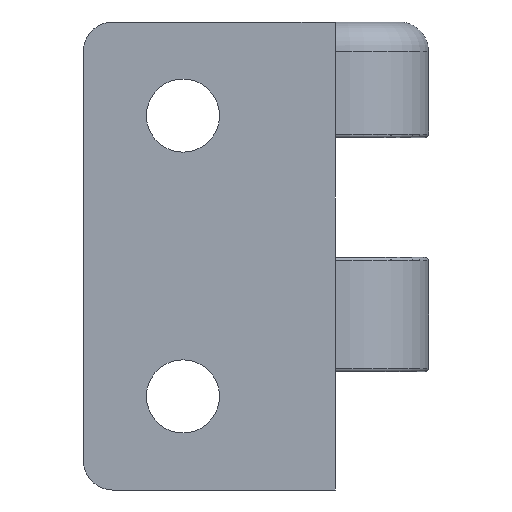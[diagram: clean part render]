
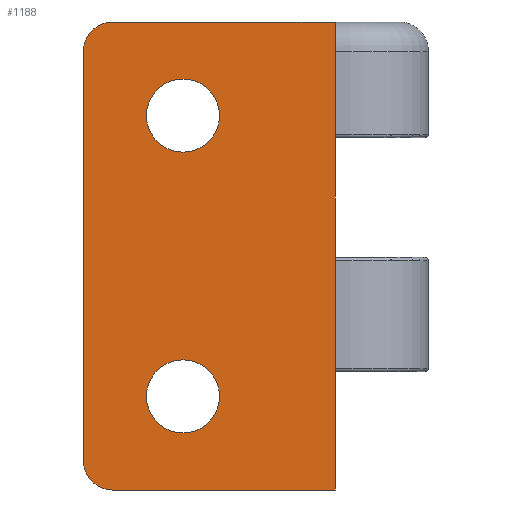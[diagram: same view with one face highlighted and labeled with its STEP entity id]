
A CAD part, front view. The second image highlights one B-rep face of the part: STEP entity #1188.
In plain terms, the highlighted planar face has unit normal (0, -1, 0).
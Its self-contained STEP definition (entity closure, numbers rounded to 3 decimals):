
#25 = AXIS2_PLACEMENT_3D ( 'NONE', #739, #729, #1416 ) ;
#50 = EDGE_LOOP ( 'NONE', ( #555 ) ) ;
#74 = VECTOR ( 'NONE', #1435, 1000. ) ;
#77 = CARTESIAN_POINT ( 'NONE',  ( -13.5, -10., -8.875 ) ) ;
#80 = CIRCLE ( 'NONE', #346, 2.5 ) ;
#118 = LINE ( 'NONE', #767, #74 ) ;
#157 = FACE_BOUND ( 'NONE', #1298, .T. ) ;
#160 = VERTEX_POINT ( 'NONE', #878 ) ;
#163 = PLANE ( 'NONE',  #841 ) ;
#173 = CARTESIAN_POINT ( 'NONE',  ( -13.5, -10., -12. ) ) ;
#205 = LINE ( 'NONE', #988, #1139 ) ;
#228 = VERTEX_POINT ( 'NONE', #710 ) ;
#253 = AXIS2_PLACEMENT_3D ( 'NONE', #173, #1392, #509 ) ;
#280 = VECTOR ( 'NONE', #516, 1000. ) ;
#287 = VERTEX_POINT ( 'NONE', #77 ) ;
#341 = CARTESIAN_POINT ( 'NONE',  ( -0.5, -10., 20. ) ) ;
#343 = EDGE_CURVE ( 'NONE', #359, #562, #1245, .T. ) ;
#346 = AXIS2_PLACEMENT_3D ( 'NONE', #354, #1009, #1014 ) ;
#354 = CARTESIAN_POINT ( 'NONE',  ( -19.5, -10., 17.5 ) ) ;
#359 = VERTEX_POINT ( 'NONE', #388 ) ;
#368 = FACE_BOUND ( 'NONE', #50, .T. ) ;
#379 = CARTESIAN_POINT ( 'NONE',  ( -13.5, -10., 15.125 ) ) ;
#388 = CARTESIAN_POINT ( 'NONE',  ( -22., -10., -17.5 ) ) ;
#485 = ORIENTED_EDGE ( 'NONE', *, *, #1121, .T. ) ;
#498 = EDGE_CURVE ( 'NONE', #541, #359, #118, .T. ) ;
#507 = LINE ( 'NONE', #850, #280 ) ;
#509 = DIRECTION ( 'NONE',  ( 0., 0., 1. ) ) ;
#516 = DIRECTION ( 'NONE',  ( 1., 0., 0. ) ) ;
#541 = VERTEX_POINT ( 'NONE', #1227 ) ;
#555 = ORIENTED_EDGE ( 'NONE', *, *, #673, .T. ) ;
#562 = VERTEX_POINT ( 'NONE', #978 ) ;
#584 = AXIS2_PLACEMENT_3D ( 'NONE', #1318, #780, #1211 ) ;
#585 = ORIENTED_EDGE ( 'NONE', *, *, #1273, .F. ) ;
#652 = DIRECTION ( 'NONE',  ( 0., 1., 0. ) ) ;
#673 = EDGE_CURVE ( 'NONE', #287, #287, #984, .T. ) ;
#710 = CARTESIAN_POINT ( 'NONE',  ( -0.5, -10., 20. ) ) ;
#717 = FACE_OUTER_BOUND ( 'NONE', #1048, .T. ) ;
#729 = DIRECTION ( 'NONE',  ( 0., -1., 0. ) ) ;
#739 = CARTESIAN_POINT ( 'NONE',  ( -19.5, -10., -17.5 ) ) ;
#757 = DIRECTION ( 'NONE',  ( -1., 0., 0. ) ) ;
#767 = CARTESIAN_POINT ( 'NONE',  ( -22., -10., 20. ) ) ;
#780 = DIRECTION ( 'NONE',  ( 0., 1., 0. ) ) ;
#834 = CARTESIAN_POINT ( 'NONE',  ( -0.5, -10., 20. ) ) ;
#841 = AXIS2_PLACEMENT_3D ( 'NONE', #834, #652, #757 ) ;
#844 = CIRCLE ( 'NONE', #584, 3.125 ) ;
#850 = CARTESIAN_POINT ( 'NONE',  ( -0.5, -10., -20. ) ) ;
#859 = ORIENTED_EDGE ( 'NONE', *, *, #918, .F. ) ;
#866 = VECTOR ( 'NONE', #1129, 1000. ) ;
#878 = CARTESIAN_POINT ( 'NONE',  ( -0.5, -10., -20. ) ) ;
#918 = EDGE_CURVE ( 'NONE', #1279, #228, #1363, .T. ) ;
#978 = CARTESIAN_POINT ( 'NONE',  ( -19.5, -10., -20. ) ) ;
#984 = CIRCLE ( 'NONE', #253, 3.125 ) ;
#988 = CARTESIAN_POINT ( 'NONE',  ( -0.5, -10., 20. ) ) ;
#995 = EDGE_CURVE ( 'NONE', #1279, #541, #80, .T. ) ;
#1009 = DIRECTION ( 'NONE',  ( 0., -1., 0. ) ) ;
#1014 = DIRECTION ( 'NONE',  ( -1., 0., 0. ) ) ;
#1036 = VERTEX_POINT ( 'NONE', #379 ) ;
#1048 = EDGE_LOOP ( 'NONE', ( #1219, #1235, #485, #585, #859, #1288 ) ) ;
#1086 = CARTESIAN_POINT ( 'NONE',  ( -19.5, -10., 20. ) ) ;
#1121 = EDGE_CURVE ( 'NONE', #562, #160, #507, .T. ) ;
#1129 = DIRECTION ( 'NONE',  ( 1., 0., 0. ) ) ;
#1139 = VECTOR ( 'NONE', #1326, 1000. ) ;
#1188 = ADVANCED_FACE ( 'NONE', ( #368, #157, #717 ), #163, .F. ) ;
#1211 = DIRECTION ( 'NONE',  ( 0., 0., 1. ) ) ;
#1219 = ORIENTED_EDGE ( 'NONE', *, *, #498, .T. ) ;
#1227 = CARTESIAN_POINT ( 'NONE',  ( -22., -10., 17.5 ) ) ;
#1235 = ORIENTED_EDGE ( 'NONE', *, *, #343, .T. ) ;
#1245 = CIRCLE ( 'NONE', #25, 2.5 ) ;
#1273 = EDGE_CURVE ( 'NONE', #228, #160, #205, .T. ) ;
#1279 = VERTEX_POINT ( 'NONE', #1086 ) ;
#1288 = ORIENTED_EDGE ( 'NONE', *, *, #995, .T. ) ;
#1298 = EDGE_LOOP ( 'NONE', ( #1360 ) ) ;
#1301 = EDGE_CURVE ( 'NONE', #1036, #1036, #844, .T. ) ;
#1318 = CARTESIAN_POINT ( 'NONE',  ( -13.5, -10., 12. ) ) ;
#1326 = DIRECTION ( 'NONE',  ( 0., 0., -1. ) ) ;
#1360 = ORIENTED_EDGE ( 'NONE', *, *, #1301, .T. ) ;
#1363 = LINE ( 'NONE', #341, #866 ) ;
#1392 = DIRECTION ( 'NONE',  ( 0., 1., 0. ) ) ;
#1416 = DIRECTION ( 'NONE',  ( -1., 0., 0. ) ) ;
#1435 = DIRECTION ( 'NONE',  ( 0., 0., -1. ) ) ;
